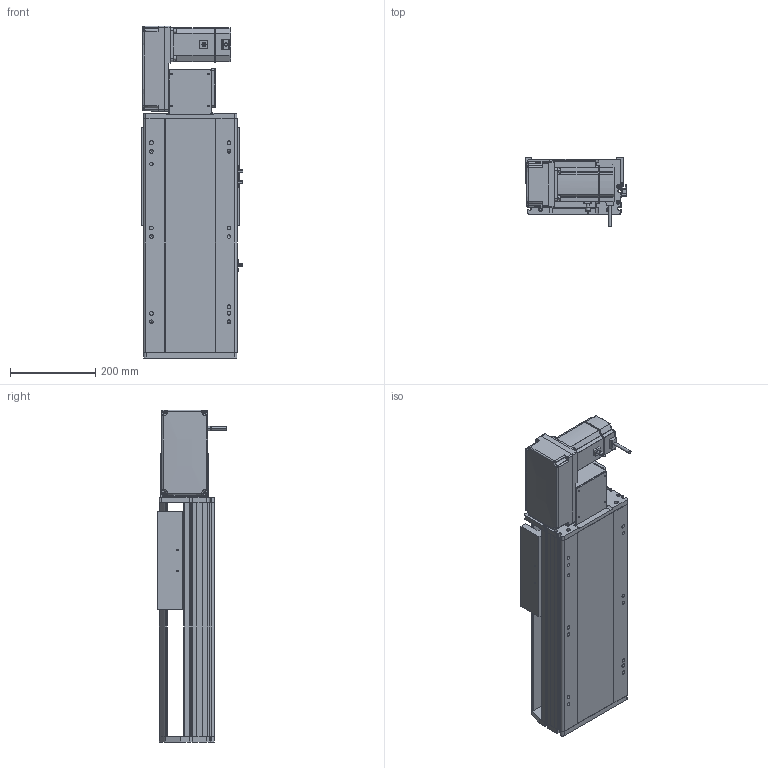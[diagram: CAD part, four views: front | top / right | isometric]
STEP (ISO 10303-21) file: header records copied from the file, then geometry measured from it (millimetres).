
FILE_DESCRIPTION (( 'STEP AP214' ), '1' );
FILE_NAME ('RTB22S-XX-200-L-M75-C4.STEP', '2025-12-12T03:10:56', ( '' ), ( '' ), 'SwSTEP 2.0', 'SolidWorks 2018', '' );
FILE_SCHEMA (( 'AUTOMOTIVE_DESIGN' ));
Length unit declared in the file: millimetre
Products named in the file (14): RTB22S-GY-005P^RTB22S-L-々湍釱蚾饜_RTB22S-XX-XX-L-M75-C4; RTB22S-L-004賑釱^RTB22S-XX-XX-L-M75-C4; RTB22S-GY-007奻裔^RTB22S-XX-XX-L-M75-C4; OMRON EE-SX672 传感器^RTB22S-XX-XX-L-M75-C4; RTB22S-GY-017P^RTB22S-L-々湍釱蚾饜_RTB22S-XX-XX-L-M75-C4; RTH22-GY-013外置感应片^RTB22S-XX-XX-L-M75-C4; RTB22S-GY-014--々湍釱^RTB22S-L-々湍釱蚾饜_RTB22S-XX-XX-L-M75-C4; RTB22S-GY-001耜裔^RTB22S-XX-XX-L-M75-C4; 750W萇儂^RTB22S-XX-XX-L-M75-C4; RTB22S-GY-018P^RTB22S-L-々湍釱蚾饜_RTB22S-XX-XX-L-M75-C4; RTB22S-XX-200-L-M75-C4; RTB22S-GY-008-M75--萇儂啣^RTB22S-L-々湍釱蚾饜_RTB22S-XX-XX-L-M75-C4; RTB22S-L-011菁釱^RTB22S-XX-XX-L-M75-C4; RTB22S-L-々湍釱蚾饜^RTB22S-XX-XX-L-M75-C4
Assembly tree (16 placements, depth 3):
  RTB22S-XX-200-L-M75-C4
    RTB22S-L-011菁釱^RTB22S-XX-XX-L-M75-C4
    750W萇儂^RTB22S-XX-XX-L-M75-C4
    RTB22S-L-004賑釱^RTB22S-XX-XX-L-M75-C4
    OMRON EE-SX672 传感器^RTB22S-XX-XX-L-M75-C4  x3
    RTH22-GY-013外置感应片^RTB22S-XX-XX-L-M75-C4
    RTB22S-GY-007奻裔^RTB22S-XX-XX-L-M75-C4
    RTB22S-GY-001耜裔^RTB22S-XX-XX-L-M75-C4
    RTB22S-L-々湍釱蚾饜^RTB22S-XX-XX-L-M75-C4
      RTB22S-GY-014--々湍釱^RTB22S-L-々湍釱蚾饜_RTB22S-XX-XX-L-M75-C4
      RTB22S-GY-017P^RTB22S-L-々湍釱蚾饜_RTB22S-XX-XX-L-M75-C4  x2
      RTB22S-GY-005P^RTB22S-L-々湍釱蚾饜_RTB22S-XX-XX-L-M75-C4
      RTB22S-GY-008-M75--萇儂啣^RTB22S-L-々湍釱蚾饜_RTB22S-XX-XX-L-M75-C4
      RTB22S-GY-018P^RTB22S-L-々湍釱蚾饜_RTB22S-XX-XX-L-M75-C4
Bounding box: 238.5 x 162.7 x 779 mm (x, y, z)
Volume: 11973250.5 mm3; surface area: 1283068.1 mm2
Topology: 15 solids, 15 shells, 1893 faces, 5136 edges, 3302 vertices
Faces by surface type: plane 905, cylinder 562, bspline 296, cone 118, sphere 8, torus 4
Entity records: 49478 total; most frequent: CARTESIAN_POINT 14432, ORIENTED_EDGE 7100, DIRECTION 6744, EDGE_CURVE 3550, AXIS2_PLACEMENT_3D 2346, VERTEX_POINT 2306, VECTOR 2052, LINE 2052
